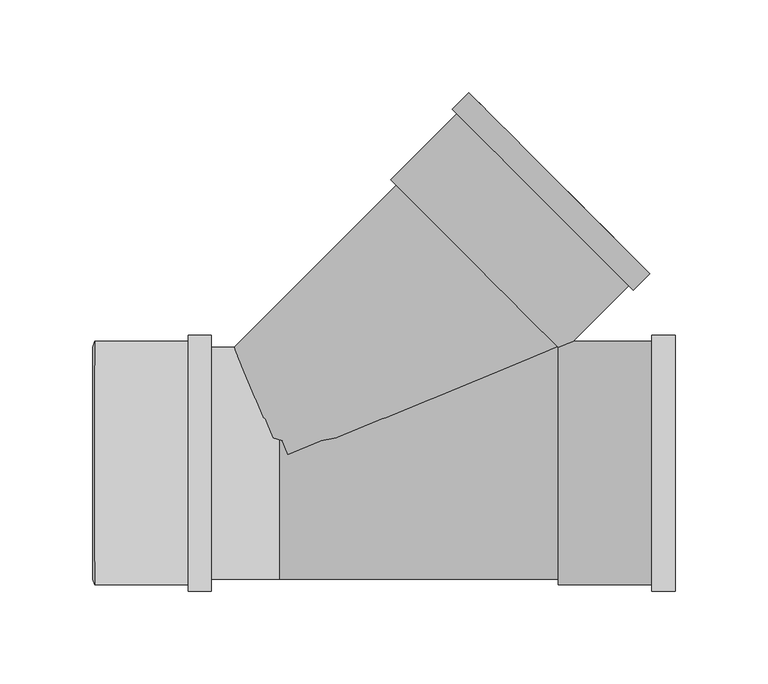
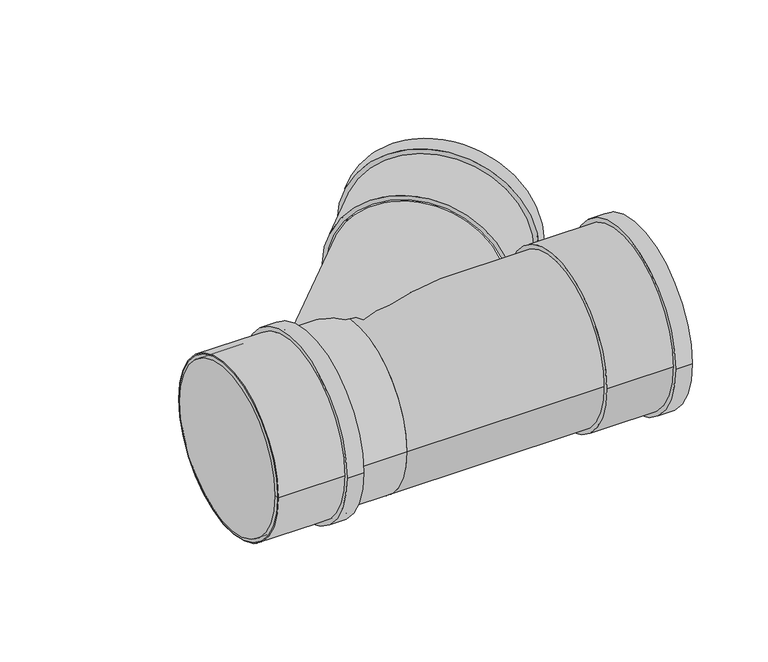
"""IFC4 building model written with IfcOpenShell, lengths in millimetres: pipe fitting geometry, Superdrain HTEA Branch : Superdrain HTEA Branch."""

from ifc_helpers import new_model, si_unit, point, frame, origin, origin_2d, place, context, project, spatial, polyline, circle_curve, trimmed, segment, composite_curve, outline, extrude, source, transform, mapped, element, save
from ifc_brep_helpers import plane_surface, cylinder_surface, revolved_surface, advanced_brep


def pipe_fitting_3749d718(model_context):
    return source(origin(), model_context, "Body", "SolidModel", [
        extrude(outline(composite_curve([segment(trimmed(circle_curve(origin_2d(), 65.625), [point((65.625, 0.0))], [point((-65.625, 0.0))], False, "CARTESIAN"), True, "CONTINUOUS"), segment(trimmed(circle_curve(origin_2d(), 65.625), [point((-65.625, 0.0))], [point((65.625, 0.0))], False, "CARTESIAN"), True, "CONTINUOUS")], self_intersect=False), holes=[composite_curve([segment(trimmed(circle_curve(origin_2d(), 62.5), [point((62.5, 0.0))], [point((-62.5, 0.0))], True, "CARTESIAN"), True, "CONTINUOUS"), segment(trimmed(circle_curve(origin_2d(), 62.5), [point((-62.5, 0.0))], [point((62.5, 0.0))], True, "CARTESIAN"), True, "CONTINUOUS")], self_intersect=False)]), frame((-99.5, 0.0, 0.0), z_axis=(1.0, 0.0, 0.0), x_axis=(0.0, 1.0, 0.0)), (0.0, 0.0, 1.0), 63.0),
        extrude(outline(composite_curve([segment(trimmed(circle_curve(origin_2d(), 68.90625), [point((68.90625, 0.0))], [point((-68.90625, 0.0))], False, "CARTESIAN"), True, "CONTINUOUS"), segment(trimmed(circle_curve(origin_2d(), 68.90625), [point((-68.90625, 0.0))], [point((68.90625, 0.0))], False, "CARTESIAN"), True, "CONTINUOUS")], self_intersect=False), holes=[composite_curve([segment(trimmed(circle_curve(origin_2d(), 62.5), [point((62.5, 0.0))], [point((-62.5, 0.0))], True, "CARTESIAN"), True, "CONTINUOUS"), segment(trimmed(circle_curve(origin_2d(), 62.5), [point((-62.5, 0.0))], [point((62.5, 0.0))], True, "CARTESIAN"), True, "CONTINUOUS")], self_intersect=False)]), frame((-49.1, 0.0, 0.0), z_axis=(1.0, 0.0, 0.0), x_axis=(0.0, 1.0, 0.0)), (0.0, 0.0, 1.0), 12.6),
        advanced_brep(
        [(-100.5, 62.5, 0.0), (-100.5, -62.5, 0.0), (-99.5, 65.625, 0.0), (-99.5, -65.625, 0.0)],
        [
            (0, 1, circle_curve(frame((-100.5, 0.0, 0.0), z_axis=(-1.0, 0.0, 0.0), x_axis=(0.0, 1.0, 0.0)), 62.5)),
            (1, 0, circle_curve(frame((-100.5, 0.0, 0.0), z_axis=(-1.0, 0.0, 0.0), x_axis=(0.0, -1.0, 0.0)), 62.5)),
            (2, 3, circle_curve(frame((-99.5, 0.0, 0.0), z_axis=(1.0, 0.0, 0.0), x_axis=(0.0, -1.0, 0.0)), 65.625)),
            (3, 2, circle_curve(frame((-99.5, 0.0, 0.0), z_axis=(1.0, 0.0, 0.0), x_axis=(0.0, 1.0, 0.0)), 65.625)),
            (3, 1),
            (0, 2),
        ],
        [
            plane_surface(frame((-100.5, 0.0, 0.0), z_axis=(-1.0, 0.0, 0.0), x_axis=(0.0, 0.0, -1.0))),
            plane_surface(frame((-99.5, 0.0, 0.0), z_axis=(1.0, 0.0, 0.0), x_axis=(0.0, 0.0, -1.0))),
            revolved_surface(polyline([(-100.5, 62.5, 0.0), (-99.5, 65.625, 0.0)]), (-120.5, 0.0, 0.0), (1.0, 0.0, 0.0)),
            revolved_surface(polyline([(-100.5, -62.5, 0.0), (-99.5, -65.625, 0.0)]), (-120.5, 0.0, 0.0), (1.0, 0.0, 0.0)),
        ],
        [
            (0, [[1, 2]]),
            (1, [[3, 4]]),
            (2, [[-4, 5, -1, 6]]),
            (3, [[-3, -6, -2, -5]]),
        ],
    ),
        advanced_brep(
        [(150.5, -65.625, 0.0), (150.5, 65.625, 0.0), (213.5, -65.625, 0.0), (213.5, 65.625, 0.0), (213.5, -62.5, 0.0), (213.5, 62.5, 0.0), (151.5, -62.5, 0.0), (151.5, 62.5, 0.0)],
        [
            (0, 1, circle_curve(frame((150.5, 0.0, 0.0), z_axis=(-1.0, 0.0, 0.0), x_axis=(0.0, 1.0, 0.0)), 65.625)),
            (1, 0, circle_curve(frame((150.5, 0.0, 0.0), z_axis=(-1.0, 0.0, 0.0), x_axis=(0.0, 1.0, 0.0)), 65.625)),
            (2, 3, circle_curve(frame((213.5, 0.0, 0.0), z_axis=(1.0, 0.0, 0.0), x_axis=(0.0, 1.0, 0.0)), 65.625)),
            (3, 2, circle_curve(frame((213.5, 0.0, 0.0), z_axis=(1.0, 0.0, 0.0), x_axis=(0.0, 1.0, 0.0)), 65.625)),
            (4, 5, circle_curve(frame((213.5, 0.0, 0.0), z_axis=(-1.0, 0.0, 0.0), x_axis=(0.0, 1.0, 0.0)), 62.5)),
            (5, 4, circle_curve(frame((213.5, 0.0, 0.0), z_axis=(-1.0, 0.0, 0.0), x_axis=(0.0, 1.0, 0.0)), 62.5)),
            (0, 2),
            (3, 1),
            (6, 7, circle_curve(frame((151.5, 0.0, 0.0), z_axis=(-1.0, 0.0, 0.0), x_axis=(0.0, 1.0, 0.0)), 62.5)),
            (7, 5),
            (4, 6),
            (7, 6, circle_curve(frame((151.5, 0.0, 0.0), z_axis=(-1.0, 0.0, 0.0), x_axis=(0.0, 1.0, 0.0)), 62.5)),
        ],
        [
            plane_surface(frame((150.5, 0.0, 0.0), z_axis=(-1.0, 0.0, 0.0), x_axis=(0.0, 0.0, 1.0))),
            plane_surface(frame((213.5, 0.0, 0.0), z_axis=(1.0, 0.0, 0.0), x_axis=(0.0, 0.0, 1.0))),
            cylinder_surface(frame((150.5, 0.0, 0.0), z_axis=(-1.0, 0.0, 0.0), x_axis=(0.0, 1.0, 0.0)), 65.625),
            revolved_surface(polyline([(151.5, 62.5, 0.0), (213.5, 62.5, 0.0)]), (151.5, 0.0, 0.0), (-1.0, 0.0, 0.0)),
            plane_surface(frame((151.5, 0.0, 0.0), z_axis=(1.0, 0.0, 0.0), x_axis=(0.0, 0.0, 1.0))),
        ],
        [
            (0, [[1, 2]]),
            (1, [[3, 4], [5, 6]]),
            (2, [[-1, 7, -4, 8]]),
            (2, [[-2, -8, -3, -7]]),
            (3, [[9, 10, -5, 11]]),
            (3, [[12, -11, -6, -10]]),
            (4, [[-12, -9]]),
        ],
    ),
        extrude(outline(composite_curve([segment(trimmed(circle_curve(origin_2d(), 68.90625), [point((68.90625, 0.0))], [point((-68.90625, 0.0))], False, "CARTESIAN"), True, "CONTINUOUS"), segment(trimmed(circle_curve(origin_2d(), 68.90625), [point((-68.90625, 0.0))], [point((68.90625, 0.0))], False, "CARTESIAN"), True, "CONTINUOUS")], self_intersect=False), holes=[composite_curve([segment(trimmed(circle_curve(origin_2d(), 62.5), [point((62.5, 0.0))], [point((-62.5, 0.0))], True, "CARTESIAN"), True, "CONTINUOUS"), segment(trimmed(circle_curve(origin_2d(), 62.5), [point((-62.5, 0.0))], [point((62.5, 0.0))], True, "CARTESIAN"), True, "CONTINUOUS")], self_intersect=False)]), frame((200.9, 0.0, 0.0), z_axis=(1.0, 0.0, 0.0), x_axis=(0.0, 1.0, 0.0)), (0.0, 0.0, 1.0), 12.6),
        extrude(outline(composite_curve([segment(trimmed(circle_curve(origin_2d(), 61.25), [point((0.0, 61.2499999))], [point((0.0, -61.2499999))], False, "CARTESIAN"), True, "CONTINUOUS"), segment(trimmed(circle_curve(origin_2d(), 61.25), [point((0.0, -61.2499999))], [point((0.0, 61.2499999))], False, "CARTESIAN"), True, "CONTINUOUS")], self_intersect=False)), frame((0.0, 0.0, 0.0), z_axis=(0.7071067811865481, 0.7071067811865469, 0.0), x_axis=(0.0, 0.0, 1.0)), (0.0, 0.0, 1.0), 150.5),
        extrude(outline(composite_curve([segment(trimmed(circle_curve(origin_2d(), 62.5), [point((62.5, 0.0))], [point((-62.5, 0.0))], False, "CARTESIAN"), True, "CONTINUOUS"), segment(trimmed(circle_curve(origin_2d(), 62.5), [point((-62.5, 0.0))], [point((62.5, 0.0))], False, "CARTESIAN"), True, "CONTINUOUS")], self_intersect=False)), frame((-99.5, 0.0, 0.0), z_axis=(1.0, 0.0, 0.0), x_axis=(0.0, 1.0, 0.0)), (0.0, 0.0, 1.0), 99.5),
        extrude(outline(composite_curve([segment(trimmed(circle_curve(origin_2d(), 62.5), [point((-62.5, 0.0))], [point((62.5, 0.0))], False, "CARTESIAN"), True, "CONTINUOUS"), segment(trimmed(circle_curve(origin_2d(), 62.5), [point((62.5, 0.0))], [point((-62.5, 0.0))], False, "CARTESIAN"), True, "CONTINUOUS")], self_intersect=False)), frame((0.0, 0.0, 0.0), z_axis=(1.0, 0.0, 0.0), x_axis=(0.0, 1.0, 0.0)), (0.0, 0.0, 1.0), 150.5),
        extrude(outline(composite_curve([segment(trimmed(circle_curve(origin_2d(), 68.90625), [point((0.0, 68.90625))], [point((0.0, -68.90625))], False, "CARTESIAN"), True, "CONTINUOUS"), segment(trimmed(circle_curve(origin_2d(), 68.90625), [point((0.0, -68.90625))], [point((0.0, 68.90625))], False, "CARTESIAN"), True, "CONTINUOUS")], self_intersect=False), holes=[composite_curve([segment(trimmed(circle_curve(origin_2d(), 62.5), [point((0.0, 62.5))], [point((0.0, -62.5))], True, "CARTESIAN"), True, "CONTINUOUS"), segment(trimmed(circle_curve(origin_2d(), 62.5), [point((0.0, -62.5))], [point((0.0, 62.5))], True, "CARTESIAN"), True, "CONTINUOUS")], self_intersect=False)]), frame((142.0577523, 142.0577523, 0.0), z_axis=(0.7071067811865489, 0.7071067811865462, 0.0), x_axis=(0.0, 0.0, 1.0)), (0.0, 0.0, 1.0), 12.6),
        extrude(outline(composite_curve([segment(trimmed(circle_curve(origin_2d(), 65.625), [point((0.0, 65.625))], [point((0.0, -65.625))], False, "CARTESIAN"), True, "CONTINUOUS"), segment(trimmed(circle_curve(origin_2d(), 65.625), [point((0.0, -65.625))], [point((0.0, 65.625))], False, "CARTESIAN"), True, "CONTINUOUS")], self_intersect=False), holes=[composite_curve([segment(trimmed(circle_curve(origin_2d(), 62.5), [point((0.0, 62.5))], [point((0.0, -62.5))], True, "CARTESIAN"), True, "CONTINUOUS"), segment(trimmed(circle_curve(origin_2d(), 62.5), [point((0.0, -62.5))], [point((0.0, 62.5))], True, "CARTESIAN"), True, "CONTINUOUS")], self_intersect=False)]), frame((106.4195706, 106.4195706, 0.0), z_axis=(0.7071067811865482, 0.7071067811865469, 0.0), x_axis=(0.0, 0.0, 1.0)), (0.0, 0.0, 1.0), 63.0),
    ])


if __name__ == "__main__":
    model = new_model("IFC4")
    model_context = context("Model", 3, world=origin())
    ifc_project = project(units=[si_unit("LENGTHUNIT", "METRE", prefix="MILLI")], contexts=[model_context])
    site = spatial("IfcSite", under=ifc_project)
    building = spatial("IfcBuilding", under=site)
    placement = place(None, origin())
    pipe_fitting_shape = pipe_fitting_3749d718(model_context)
    element("IfcPipeFitting", 1, ObjectType="Superdrain HTEA Branch : Superdrain HTEA Branch", at=placement, inside=building, context=model_context, shape_type="MappedRepresentation", body=[
        mapped(pipe_fitting_shape, transform((0.0, 0.0, 0.0), x_axis=(1.0, 0.0, 0.0), y_axis=(0.0, 1.0, 0.0), z_axis=(0.0, 0.0, 1.0))),
    ])
    save(model, "model.ifc")
